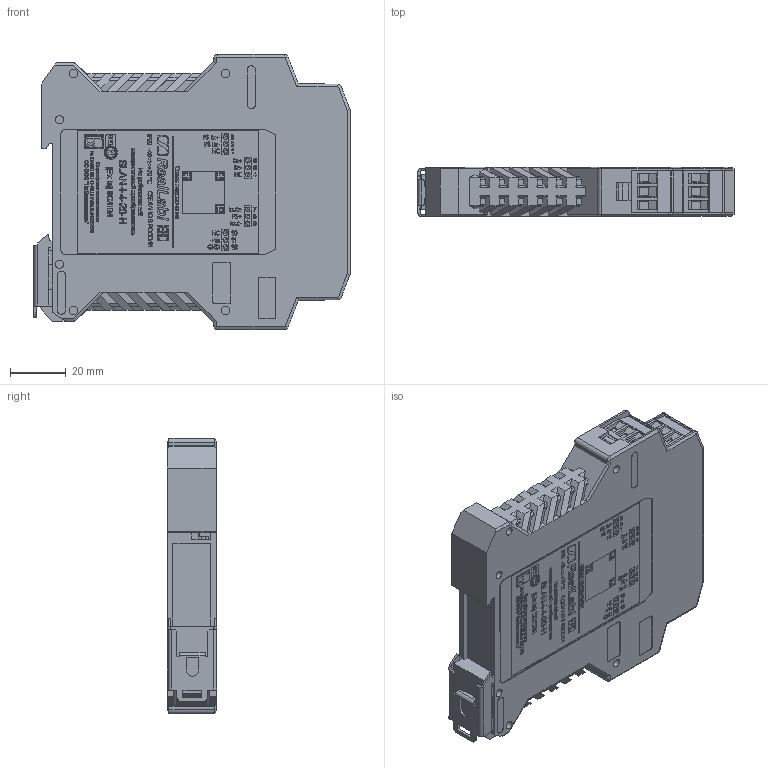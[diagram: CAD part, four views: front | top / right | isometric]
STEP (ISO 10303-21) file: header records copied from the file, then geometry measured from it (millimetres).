
FILE_DESCRIPTION(('STEP AP214'), '1');
FILE_NAME('SLAN-I-4-20-H', '', ('UNSPECIFIED'), ('UNSPECIFIED'), 'C3D Converter', 'C3D Toolkit', '');
FILE_SCHEMA(('AUTOMOTIVE_DESIGN { 1 0 10303 214 3 1 1}'));
Length unit declared in the file: millimetre
Products named in the file (1): SLAN-I-4-20-H
Bounding box: 113.65 x 17.75 x 99 mm (x, y, z)
Volume: 66694.4 mm3; surface area: 73859.5 mm2
Topology: 1 solids, 51 shells, 9512 faces, 26185 edges, 17360 vertices
Faces by surface type: plane 5293, extrusion 3776, cylinder 419, cone 24
Full cylindrical faces by diameter (mm): 1.4 x12, 1.8 x4, 3 x16, 3.783 x12, 4 x12
Entity records: 394069 total; most frequent: CARTESIAN_POINT 90124, ORIENTED_EDGE 52258, DIRECTION 34633, EDGE_CURVE 26129, VECTOR 21259, LINE 17483, VERTEX_POINT 17360, B_SPLINE_CURVE_WITH_KNOTS 11352
